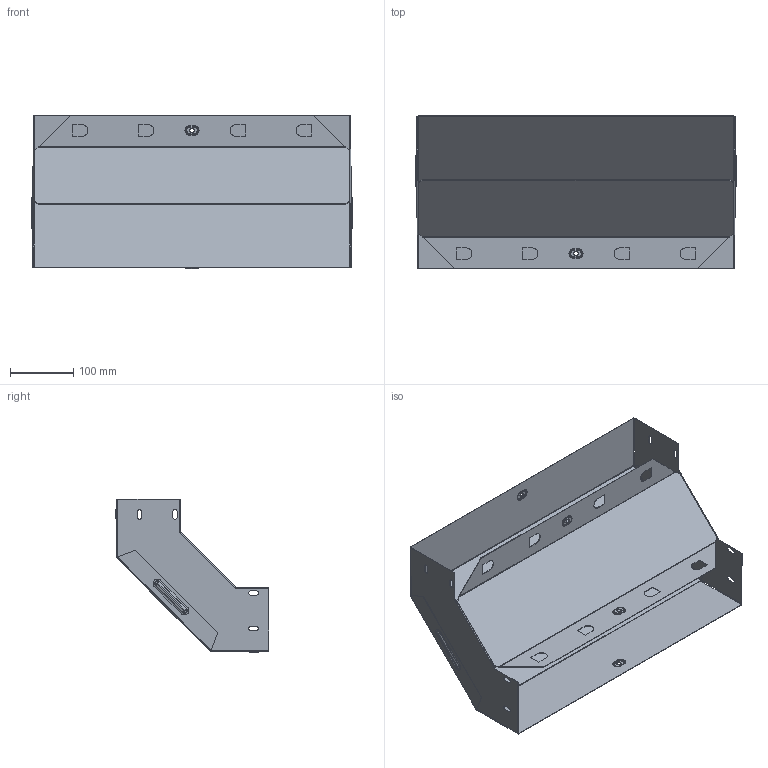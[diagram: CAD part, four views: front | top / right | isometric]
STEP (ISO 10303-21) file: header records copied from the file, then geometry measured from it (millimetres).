
FILE_DESCRIPTION (( 'STEP AP214' ), '1' );
FILE_NAME ('vo90100500_捘.STEP', '2019-06-10T09:06:19', ( '砐錪賧瘔蠈錪 Windows' ), ( '' ), 'SwSTEP 2.0', 'SolidWorks 2018', '' );
FILE_SCHEMA (( 'AUTOMOTIVE_DESIGN' ));
Length unit declared in the file: millimetre
Products named in the file (1): vo90100500_捘
Bounding box: 505.6 x 242.31 x 242.31 mm (x, y, z)
Volume: 297425.8 mm3; surface area: 747840.8 mm2
Topology: 2 solids, 2 shells, 312 faces, 756 edges, 464 vertices
Faces by surface type: plane 124, cylinder 116, torus 64, bspline 8
Entity records: 9355 total; most frequent: CARTESIAN_POINT 1781, DIRECTION 1646, ORIENTED_EDGE 1512, EDGE_CURVE 756, AXIS2_PLACEMENT_3D 617, VERTEX_POINT 464, LINE 412, VECTOR 412
